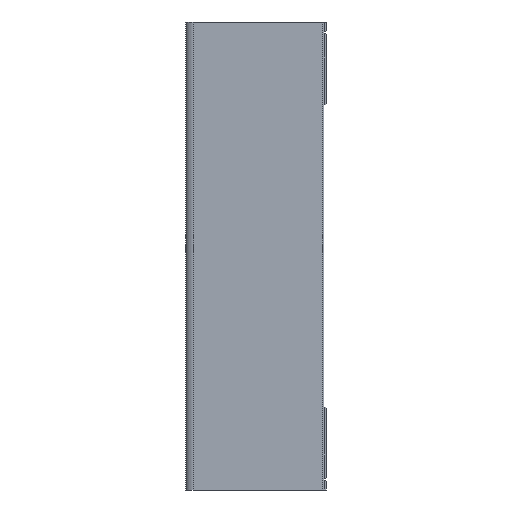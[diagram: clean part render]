
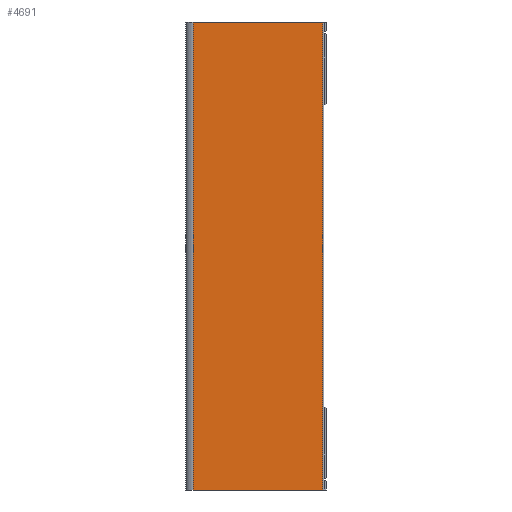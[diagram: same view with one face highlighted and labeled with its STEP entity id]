
A CAD part, left-side view. The second image highlights one B-rep face of the part: STEP entity #4691.
In plain terms, the highlighted planar face has unit normal (-1, 0, 0).
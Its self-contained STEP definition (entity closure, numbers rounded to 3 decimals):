
#351=LINE('',#7224,#904);
#352=LINE('',#7227,#905);
#353=LINE('',#7229,#906);
#354=LINE('',#7231,#907);
#904=VECTOR('',#5843,1000.);
#905=VECTOR('',#5844,1000.);
#906=VECTOR('',#5845,1000.);
#907=VECTOR('',#5846,1000.);
#1641=ORIENTED_EDGE('',*,*,#2765,.F.);
#1642=ORIENTED_EDGE('',*,*,#2766,.F.);
#1643=ORIENTED_EDGE('',*,*,#2767,.T.);
#1644=ORIENTED_EDGE('',*,*,#2768,.T.);
#2765=EDGE_CURVE('',#3339,#3340,#351,.T.);
#2766=EDGE_CURVE('',#3341,#3339,#352,.T.);
#2767=EDGE_CURVE('',#3341,#3342,#353,.T.);
#2768=EDGE_CURVE('',#3342,#3340,#354,.T.);
#3339=VERTEX_POINT('',#7225);
#3340=VERTEX_POINT('',#7226);
#3341=VERTEX_POINT('',#7228);
#3342=VERTEX_POINT('',#7230);
#3778=EDGE_LOOP('',(#1641,#1642,#1643,#1644));
#4123=FACE_BOUND('',#3778,.T.);
#4438=PLANE('',#5137);
#4691=ADVANCED_FACE('',(#4123),#4438,.T.);
#5137=AXIS2_PLACEMENT_3D('',#7223,#5841,#5842);
#5841=DIRECTION('',(-1.,0.,0.));
#5842=DIRECTION('',(0.,-1.,0.));
#5843=DIRECTION('',(0.,-1.,0.));
#5844=DIRECTION('',(0.,0.,1.));
#5845=DIRECTION('',(0.,-1.,0.));
#5846=DIRECTION('',(0.,0.,1.));
#7223=CARTESIAN_POINT('',(-217.5,-181.6,0.));
#7224=CARTESIAN_POINT('',(-217.5,-181.6,1357.5));
#7225=CARTESIAN_POINT('',(-217.5,196.,1357.5));
#7226=CARTESIAN_POINT('',(-217.5,-179.7,1357.5));
#7227=CARTESIAN_POINT('',(-217.5,196.,0.));
#7228=CARTESIAN_POINT('',(-217.5,196.,0.));
#7229=CARTESIAN_POINT('',(-217.5,-181.6,0.));
#7230=CARTESIAN_POINT('',(-217.5,-179.7,0.));
#7231=CARTESIAN_POINT('',(-217.5,-179.7,0.));
